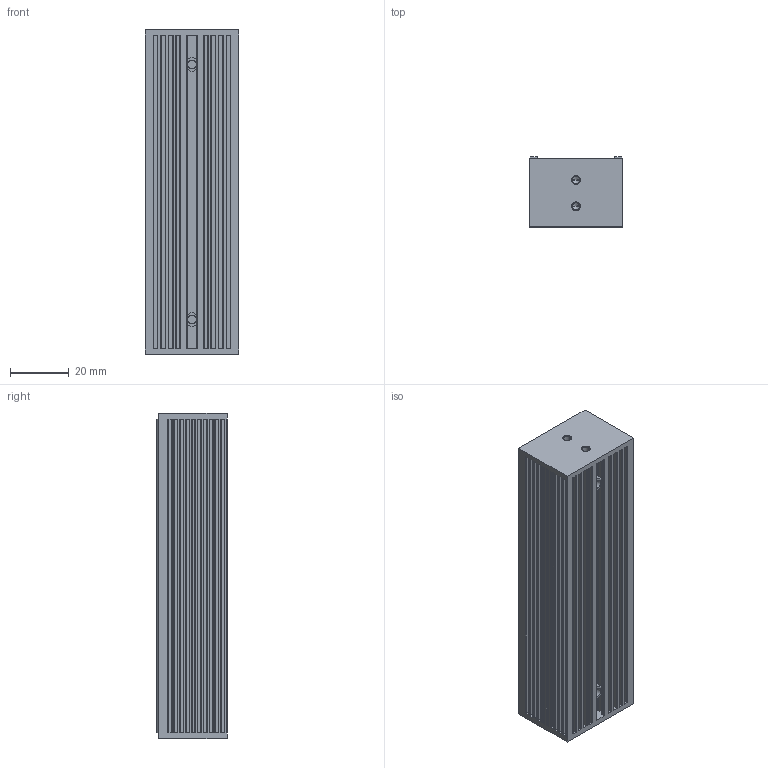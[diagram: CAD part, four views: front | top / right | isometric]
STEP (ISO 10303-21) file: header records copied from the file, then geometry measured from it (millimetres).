
FILE_DESCRIPTION((''),'2;1');
FILE_NAME('DSL32','2020-03-23T',('ASUS'),(''),'PRO/ENGINEER BY PARAMETRIC TECHNOLOGY CORPORATION, 2008380','PRO/ENGINEER BY PARAMETRIC TECHNOLOGY CORPORATION, 2008380','');
FILE_SCHEMA(('CONFIG_CONTROL_DESIGN'));
Length unit declared in the file: millimetre
Products named in the file (1): DSL32
Bounding box: 32 x 24 x 111 mm (x, y, z)
Volume: 75409.5 mm3; surface area: 25886.6 mm2
Topology: 1 solids, 5 shells, 305 faces, 780 edges, 512 vertices
Faces by surface type: plane 191, cylinder 94, cone 20
Entity records: 9205 total; most frequent: DIRECTION 1592, CARTESIAN_POINT 1590, ORIENTED_EDGE 1528, EDGE_CURVE 772, VECTOR 564, LINE 564, AXIS2_PLACEMENT_3D 514, VERTEX_POINT 512
